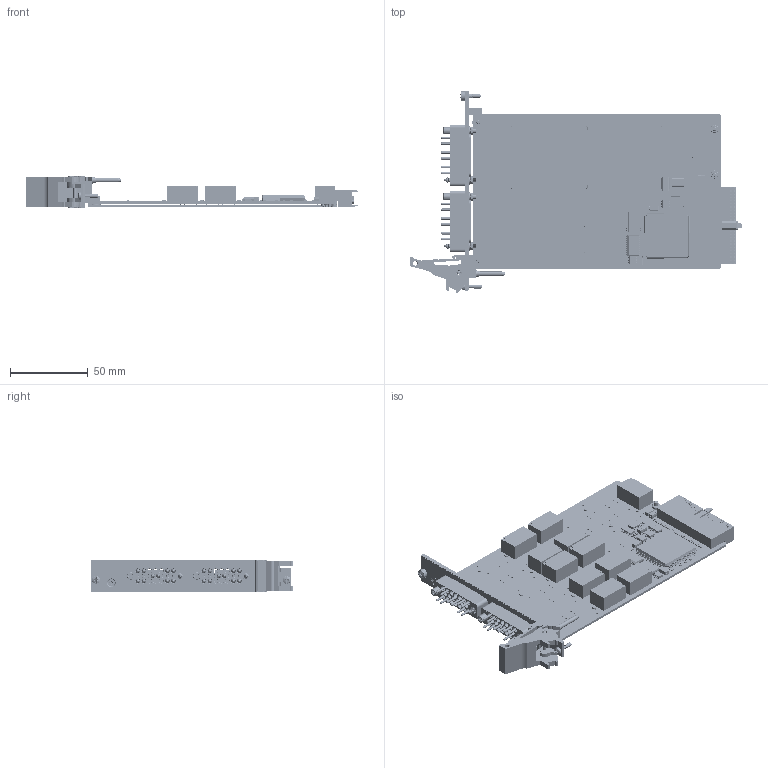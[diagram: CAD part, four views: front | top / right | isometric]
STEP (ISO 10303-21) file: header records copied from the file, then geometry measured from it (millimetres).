
FILE_DESCRIPTION (( 'STEP AP214' ), '1' );
FILE_NAME ('40-160-903 PXI 10x SPST 10A POWER CARD.STEP', '2026-02-17T10:03:07', ( '' ), ( '' ), 'SwSTEP 2.0', 'SolidWorks 2025', '' );
FILE_SCHEMA (( 'AUTOMOTIVE_DESIGN' ));
Length unit declared in the file: millimetre
Products named in the file (43): C-CN-502 Male Connector Mount; C-CN-502 Positronic Connector Washer; C-FP-270 FP PXI 1-Slot 2xMS Power Cons; C-FX-495 Countersunk cross screw 2.5 X 8; C-IC-249; 40-160-903 PXI 10x SPST 10A POWER CARD; C-FX-165 Handle Pin; C-FX-1176 M2,5 Collar Posi-Slot Screw; C-IC-219 PCI Interface IC 32-bit 33MHz PCI Target; C-FX-165 Handle Finger; Z-FX-2001 FP Fixing - Bush + Screw; C-CN-502 female Mount pin; L-FP-270-# PXI 1 Slot 2 x MS Power Connector FP Label; C-FX-165 CPCI Ejector Handle; C-CN-502  Positronic Connector Assembly; C-SC-056 80V 250mA (DC) SOD323 Diode; C-FX-034 Washer, M3, Plain, Nylon; A-PC-742-V02 10 X SPST POWER RELAY BOARD; C-RL-155 Relay DK1a-5V_With Out Text; C-FX-042 Screw M2.5x6 CSK Pozi_M 2.5x06 - C-FX-042; C-FX-165 Handle Body; C-PC-311 24 x SPST HV Card; C-FX-101 Screw, M2.5 x 6, Pan Hd, Pozi, Steel, BZP; C-CN-355 Compact pci connector 3; L-FX-165 PXI Handle Label; A-FP-270 PXI 1 Slot 2 x MS Power Connector FP + Label Assy; C-BP-015 PXI 3U x 1 Slot Blank Panel; C-IC-100 IC, with Clear, Non Inverted, Positive Edge, 12 ns, 37 MHz, 4 mA, SOIC_Without Pckage Description; C-FX-028 Nut, M2.5, Hex, Steel, BZP_C-FX-028 M2,5 Nut; C-IC-124 16-Bit Constant Current Sink Driver; C-BK-026 Bush Front Panel Mounting; C-FX-1181 Low Profile L Shaped Reversed Mounting Block; C-CN-500 PXI MC124N TURNED PIN MALE; C-PC-742 40-160-003 POWER RELAY MODULE; L-FP-270 PXI 1 Slot 2 x MS Power Connector FP Label assy; A-FP-270-L1 FP FUll Assy; C-IC-087 IC TTL Gate 14-Pin SOIC_No Text; C-CP-034; P-FX-017 M2,5 Collar Posi-Slot Screw; C-CN-502 Positronic Connector Nut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
Assembly tree (144 placements, depth 5):
  40-160-903 PXI 10x SPST 10A POWER CARD
    A-PC-742-V02 10 X SPST POWER RELAY BOARD
      C-PC-742 40-160-003 POWER RELAY MODULE
      C-IC-219 PCI Interface IC 32-bit 33MHz PCI Target
      C-IC-087 IC TTL Gate 14-Pin SOIC_No Text
      C-CN-355 Compact pci connector 3
      C-RL-155 Relay DK1a-5V_With Out Text  x11
      C-CP-024 Cap 10uF 16V Tant Smt (C.CASE)  x5
      C-IC-249  x3
      C-SC-056 80V 250mA (DC) SOD323 Diode  x20
      C-CP-034  x26
      C-IC-124 16-Bit Constant Current Sink Driver  x2
      C-IC-100 IC, with Clear, Non Inverted, Positive Edge, 12 ns, 37 MHz, 4 mA, SOIC_Without Pckage Description  x2
      C-RS-102 RES 4x10R 1206 1-16W 5% 200PPM  x12
    A-FP-270-L1 FP FUll Assy
      A-FP-270 PXI 1 Slot 2 x MS Power Connector FP + Label Assy
        C-FP-270 FP PXI 1-Slot 2xMS Power Cons
          C-BP-015 PXI 3U x 1 Slot Blank Panel
        L-FP-270 PXI 1 Slot 2 x MS Power Connector FP Label assy
          L-FP-270-# PXI 1 Slot 2 x MS Power Connector FP Label
      C-FX-165 CPCI Ejector Handle
        C-FX-165 Handle Body
        C-FX-165 Handle Finger
        C-FX-165 Handle Pin
        P-FX-017 M2,5 Collar Posi-Slot Screw
        L-FX-165 PXI Handle Label
      Z-FX-2001 FP Fixing - Bush + Screw
        C-BK-026 Bush Front Panel Mounting
        C-FX-1176 M2,5 Collar Posi-Slot Screw
      C-FX-1181 Low Profile L Shaped Reversed Mounting Block
      C-FX-042 Screw M2.5x6 CSK Pozi_M 2.5x06 - C-FX-042
      C-FX-101 Screw, M2.5 x 6, Pan Hd, Pozi, Steel, BZP
    C-CN-502  Positronic Connector Assembly  x2
      C-CN-502  Positronic Connector Body
      C-CN-502 female Mount pin
      C-CN-502 Male Connector Mount
      C-CN-502 Positronic Connector Washer
      C-CN-502 Positronic Connector Nut
    C-PC-311 24 x SPST HV Card
    C-CN-500 PXI MC124N TURNED PIN MALE  x20
    C-FX-495 Countersunk cross screw 2.5 X 8  x4
    C-FX-028 Nut, M2.5, Hex, Steel, BZP_C-FX-028 M2,5 Nut  x2
    C-FX-034 Washer, M3, Plain, Nylon  x4
Bounding box: 213.7 x 129.63 x 20 mm (x, y, z)
Volume: 98521 mm3; surface area: 120984.4 mm2
Topology: 142 solids, 165 shells, 13887 faces, 35074 edges, 22083 vertices
Faces by surface type: plane 7688, cylinder 4225, cone 899, torus 466, bspline 433, sphere 176
Entity records: 294084 total; most frequent: CARTESIAN_POINT 49900, DIRECTION 40309, ORIENTED_EDGE 40088, EDGE_CURVE 20048, LINE 14269, VECTOR 14269, AXIS2_PLACEMENT_3D 13020, VERTEX_POINT 12893
